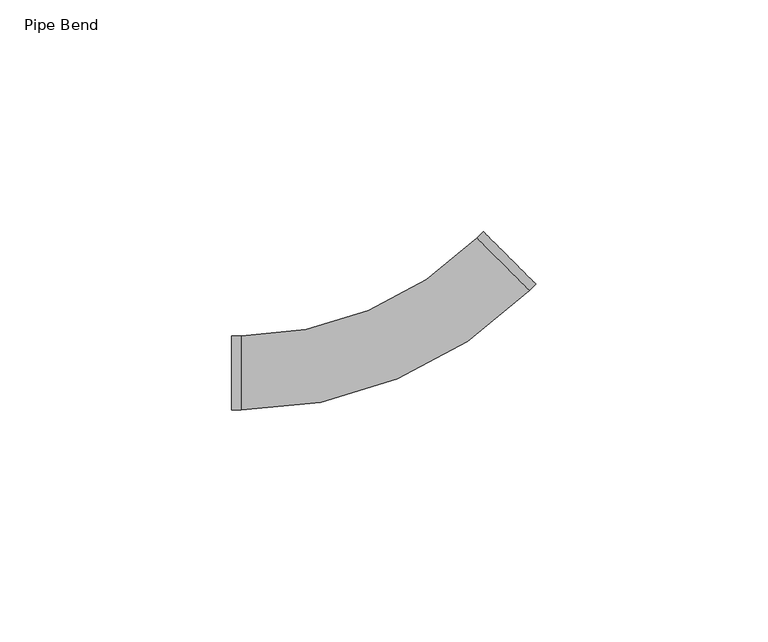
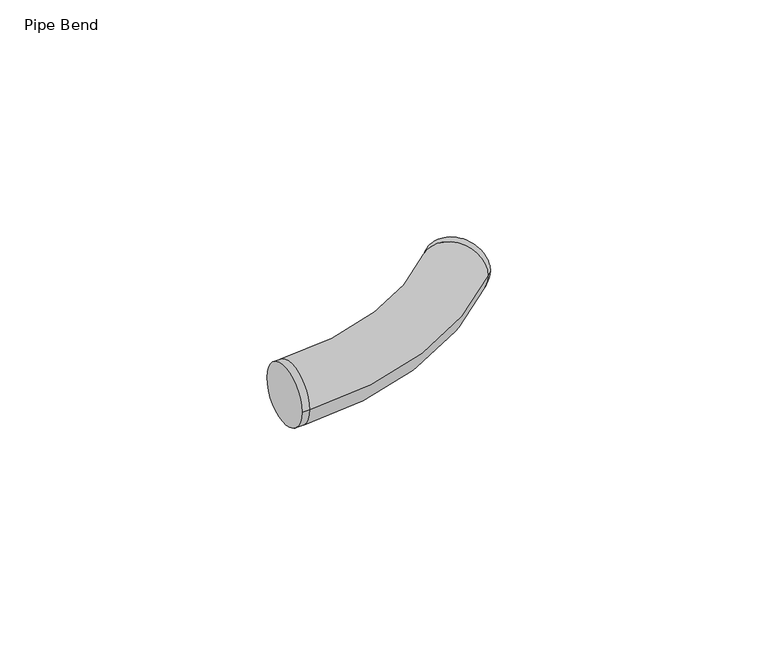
"""IFC4 building model written with IfcOpenShell, lengths in millimetres: pipe fitting geometry, Pipe Bend : Superpipe 2+ Pipe bend."""

from ifc_helpers import new_model, si_unit, point, frame, origin, place, context, project, spatial, circle_curve, ellipse_curve, trimmed, source, transform, mapped, element, save
from ifc_brep_helpers import plane_surface, cylinder_surface, revolved_surface, advanced_brep


def pipe_bend_82ffcff3(model_context):
    return source(origin(), model_context, "Body", "AdvancedBrep", [
        advanced_brep(
        [(-35.137085, -8.0, 0.0), (-35.137085, 8.0, 0.0), (-33.137085, -8.0, 0.0), (-33.137085, 8.0, 0.0), (17.7746033, 29.0883118, 0.0), (29.0883118, 17.7746033, 0.0), (23.4314575, 23.4314575, 8.0), (23.4314575, 23.4314575, -8.0), (30.5025253, 19.1888168, 0.0), (19.1888168, 30.5025253, 0.0)],
        [
            (0, 1, circle_curve(frame((-35.137085, 0.0, 0.0), z_axis=(-1.0, 0.0, 0.0), x_axis=(0.0, 1.0, 0.0)), 8.0)),
            (1, 0, circle_curve(frame((-35.137085, 0.0, 0.0), z_axis=(-1.0, 0.0, 0.0), x_axis=(0.0, 1.0, 0.0)), 8.0)),
            (0, 2),
            (2, 3, circle_curve(frame((-33.137085, 0.0, 0.0), z_axis=(-1.0, 0.0, 0.0), x_axis=(0.0, 1.0, 0.0)), 8.0)),
            (3, 1),
            (3, 2, circle_curve(frame((-33.137085, 0.0, 0.0), z_axis=(-1.0, 0.0, 0.0), x_axis=(0.0, 1.0, 0.0)), 8.0)),
            (4, 3, circle_curve(frame((-33.137085, 80.0, 0.0), z_axis=(0.0, 0.0, -1.0), x_axis=(0.0, -1.0, 0.0)), 72.0)),
            (2, 5, circle_curve(frame((-33.137085, 80.0, 0.0), z_axis=(0.0, 0.0, 1.0), x_axis=(0.0, -1.0, 0.0)), 88.0)),
            (5, 6, circle_curve(frame((23.4314575, 23.4314575, 0.0), z_axis=(-0.7071067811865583, -0.7071067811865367, 0.0), x_axis=(-0.7071067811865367, 0.7071067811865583, 0.0)), 8.0)),
            (6, 4, circle_curve(frame((23.4314575, 23.4314575, 0.0), z_axis=(-0.7071067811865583, -0.7071067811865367, 0.0), x_axis=(-0.7071067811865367, 0.7071067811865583, 0.0)), 8.0)),
            (4, 7, circle_curve(frame((23.4314575, 23.4314575, 0.0), z_axis=(-0.7071067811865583, -0.7071067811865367, 0.0), x_axis=(-0.7071067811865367, 0.7071067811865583, 0.0)), 8.0)),
            (7, 5, circle_curve(frame((23.4314575, 23.4314575, 0.0), z_axis=(-0.7071067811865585, -0.7071067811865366, 0.0), x_axis=(-0.7071067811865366, 0.7071067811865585, 0.0)), 8.0)),
            (8, 9, circle_curve(frame((24.8456711, 24.8456711, 0.0), z_axis=(0.7071067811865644, 0.7071067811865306, 0.0), x_axis=(-0.7071067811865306, 0.7071067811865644, 0.0)), 8.0)),
            (9, 8, circle_curve(frame((24.8456711, 24.8456711, 0.0), z_axis=(0.7071067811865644, 0.7071067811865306, 0.0), x_axis=(-0.7071067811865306, 0.7071067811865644, 0.0)), 8.0)),
            (9, 4),
            (5, 8),
        ],
        [
            plane_surface(frame((-35.137085, 0.0, 0.0), z_axis=(-1.0, 0.0, 0.0), x_axis=(0.0, 0.0, 1.0))),
            cylinder_surface(frame((-35.137085, 0.0, 0.0), z_axis=(-1.0, 0.0, 0.0), x_axis=(0.0, 1.0, 0.0)), 8.0),
            revolved_surface(trimmed(ellipse_curve(frame((-33.137085, 0.0, 0.0), z_axis=(-1.0, 0.0, 0.0), x_axis=(0.0, 1.0, 0.0)), 8.0, 8.0), [point((-33.137085, -8.0, 0.0))], [point((-33.137085, 8.0, 0.0))], True, "CARTESIAN"), (-33.137085, 80.0, 0.0), (0.0, 0.0, 1.0)),
            revolved_surface(trimmed(ellipse_curve(frame((-33.137085, 0.0, 0.0), z_axis=(-1.0, 0.0, 0.0), x_axis=(0.0, 1.0, 0.0)), 8.0, 8.0), [point((-33.137085, 8.0, 0.0))], [point((-33.137085, -8.0, 0.0))], True, "CARTESIAN"), (-33.137085, 80.0, 0.0), (0.0, 0.0, 1.0)),
            plane_surface(frame((24.8456711, 24.8456711, 0.0), z_axis=(0.7071067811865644, 0.7071067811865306, 0.0), x_axis=(0.0, 0.0, 1.0))),
            cylinder_surface(frame((23.4314575, 23.4314575, 0.0), z_axis=(-0.7071067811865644, -0.7071067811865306, 0.0), x_axis=(-0.7071067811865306, 0.7071067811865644, 0.0)), 8.0),
        ],
        [
            (0, [[1, 2]]),
            (1, [[-1, 3, 4, 5]]),
            (1, [[-2, -5, 6, -3]]),
            (2, [[7, -4, 8, 9, 10]]),
            (3, [[-7, 11, 12, -8, -6]]),
            (4, [[13, 14]]),
            (5, [[-14, 15, -10, -9, 16]]),
            (5, [[-13, -16, -12, -11, -15]]),
        ],
    ),
    ])


if __name__ == "__main__":
    model = new_model("IFC4")
    model_context = context("Model", 3, world=origin())
    ifc_project = project(units=[si_unit("LENGTHUNIT", "METRE", prefix="MILLI")], contexts=[model_context])
    site = spatial("IfcSite", under=ifc_project)
    building = spatial("IfcBuilding", under=site)
    placement = place(None, origin())
    pipe_bend_shape = pipe_bend_82ffcff3(model_context)
    element("IfcPipeFitting", 1, ObjectType="Pipe Bend : Superpipe 2+ Pipe bend", at=placement, inside=building, context=model_context, shape_type="MappedRepresentation", body=[
        mapped(pipe_bend_shape, transform((0.0, 0.0, 0.0), x_axis=(1.0, 0.0, 0.0), y_axis=(0.0, 1.0, 0.0), z_axis=(0.0, 0.0, 1.0))),
    ])
    save(model, "model.ifc")
